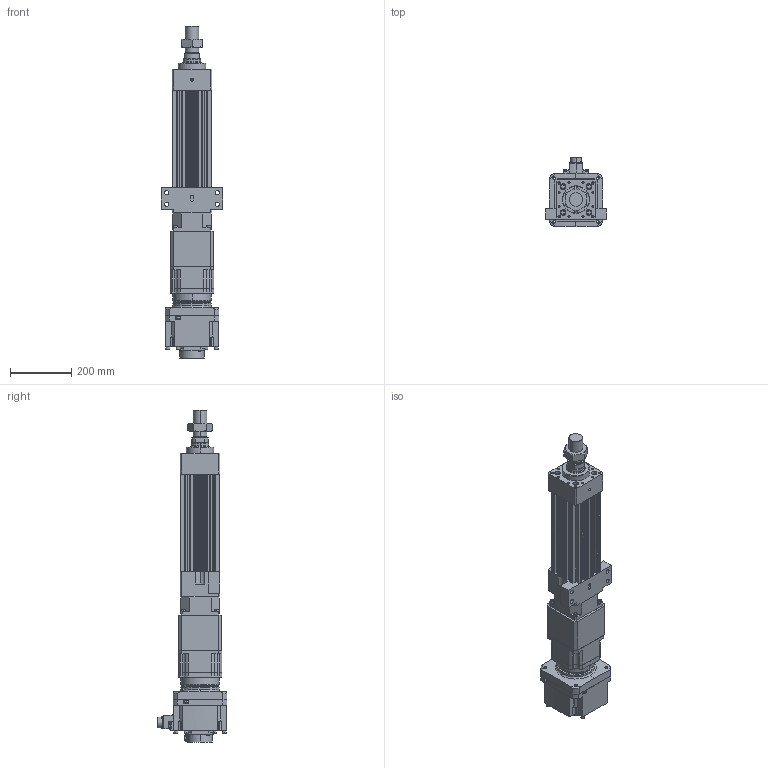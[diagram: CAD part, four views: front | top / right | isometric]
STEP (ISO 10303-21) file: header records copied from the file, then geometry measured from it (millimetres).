
FILE_DESCRIPTION (( 'STEP AP203' ), '1' );
FILE_NAME ('HES130FS(HS)-S100-W020G00-M-FFC.STEP', '2023-01-31T02:59:34', ( 'tms' ), ( '' ), 'SwSTEP 2.0', 'SolidWorks 2013', '' );
FILE_SCHEMA (( 'CONFIG_CONTROL_DESIGN' ));
Length unit declared in the file: millimetre
Products named in the file (9): HES130FS(HS)-S100-W020G00-M-FFC; HG-SR202; AB1421; HES130-S100-G142-FFC; P0403500801; M45X1.5P; AB142-003[HG-SR352]; P1301500001; HES130 ROD M ST100
Assembly tree (8 placements, depth 3):
  HES130FS(HS)-S100-W020G00-M-FFC
    HES130-S100-G142-FFC
    HES130 ROD M ST100
    M45X1.5P
    AB142-003[HG-SR352]
      AB1421
      P1301500001
      P0403500801
    HG-SR202
Bounding box: 200 x 228.85 x 1087.5 mm (x, y, z)
Volume: 9889692.7 mm3; surface area: 1214894.8 mm2
Topology: 4 solids, 22 shells, 1546 faces, 3982 edges, 2565 vertices
Faces by surface type: cylinder 694, plane 586, cone 184, bspline 76, torus 6
Entity records: 55838 total; most frequent: CARTESIAN_POINT 16862, DIRECTION 8160, ORIENTED_EDGE 7822, EDGE_CURVE 3933, AXIS2_PLACEMENT_3D 3080, VERTEX_POINT 2565, LINE 2000, VECTOR 2000
